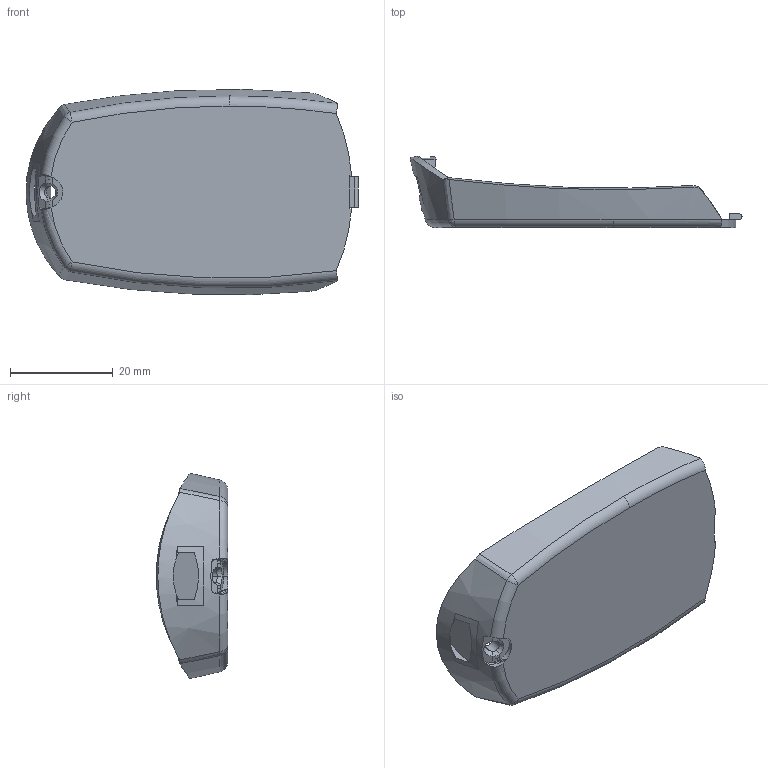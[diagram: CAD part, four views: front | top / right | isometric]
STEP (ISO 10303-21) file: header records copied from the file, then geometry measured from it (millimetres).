
FILE_DESCRIPTION (( 'STEP AP214' ), '1' );
FILE_NAME ('Cos PP114.STEP', '2018-06-06T09:18:45', ( 'aaa' ), ( '' ), 'SwSTEP 2.0', 'SolidWorks 2013', '' );
FILE_SCHEMA (( 'AUTOMOTIVE_DESIGN' ));
Length unit declared in the file: millimetre
Products named in the file (1): Cos PP114
Bounding box: 64.49 x 13.85 x 39.86 mm (x, y, z)
Volume: 4732.8 mm3; surface area: 6980.1 mm2
Topology: 1 solids, 1 shells, 195 faces, 561 edges, 363 vertices
Faces by surface type: plane 102, bspline 42, torus 20, cylinder 16, cone 11, sphere 4
Entity records: 7918 total; most frequent: CARTESIAN_POINT 3340, ORIENTED_EDGE 1114, DIRECTION 731, EDGE_CURVE 557, VERTEX_POINT 363, AXIS2_PLACEMENT_3D 249, LINE 233, VECTOR 233
